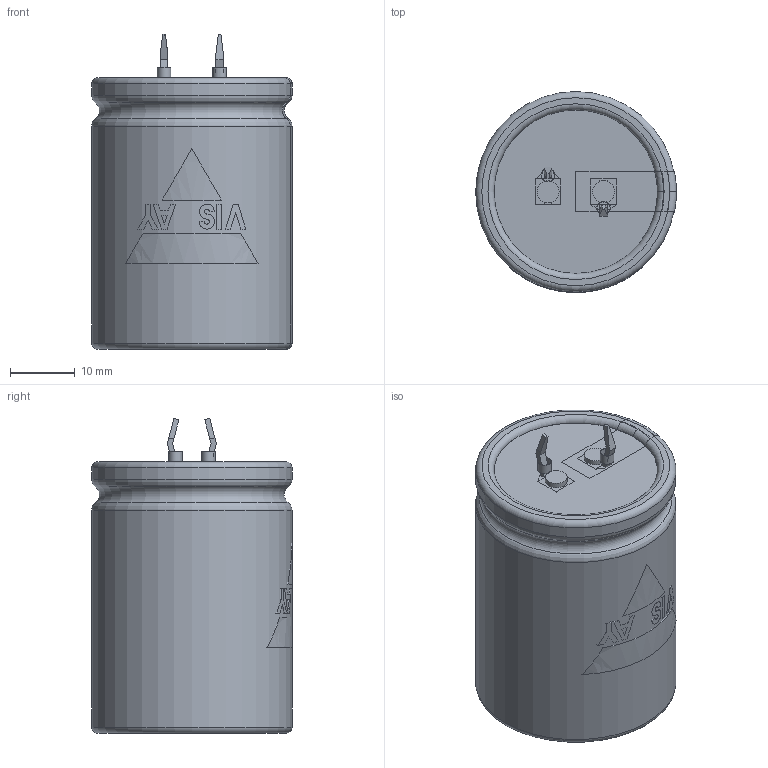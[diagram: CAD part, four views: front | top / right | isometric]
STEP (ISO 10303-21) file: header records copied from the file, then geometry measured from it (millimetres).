
FILE_DESCRIPTION(('FreeCAD Model'),'2;1');
FILE_NAME( 'C:/Users/Gebruiker/Documents/FreeCAD/SnapIn_30x40_2pin_5.8.step', '2020-11-12T20:23:32',('Author'),(''), 'Open CASCADE STEP processor 6.8','FreeCAD','Unknown');
FILE_SCHEMA(('AUTOMOTIVE_DESIGN_CC2 { 1 2 10303 214 -1 1 5 4 }'));
Length unit declared in the file: millimetre
Products named in the file (9): ASSEMBLY; TerminalMin; TerminalPlus; PCBHoles; Disc; BottomInsulation; Can3D; InkMinusBar; InkLogo
Assembly tree (8 placements, depth 2):
  ASSEMBLY
    TerminalMin
    TerminalPlus
    PCBHoles
    Disc
    BottomInsulation
    Can3D
    InkMinusBar
    InkLogo
Bounding box: 31.05 x 31.05 x 48.75 mm (x, y, z)
Volume: 35854.8 mm3; surface area: 13283.4 mm2
Topology: 15 solids, 15 shells, 180 faces, 450 edges, 299 vertices
Faces by surface type: plane 134, cylinder 28, torus 18
Full cylindrical faces by diameter (mm): 2 x2, 2.1 x2, 3.4 x2, 24.8 x2, 25.3 x1, 31 x2
Entity records: 19644 total; most frequent: CARTESIAN_POINT 9608, DIRECTION 1560, ORIENTED_EDGE 900, PCURVE 900, DEFINITIONAL_REPRESENTATION 900, LINE 868, VECTOR 868, EDGE_CURVE 450
